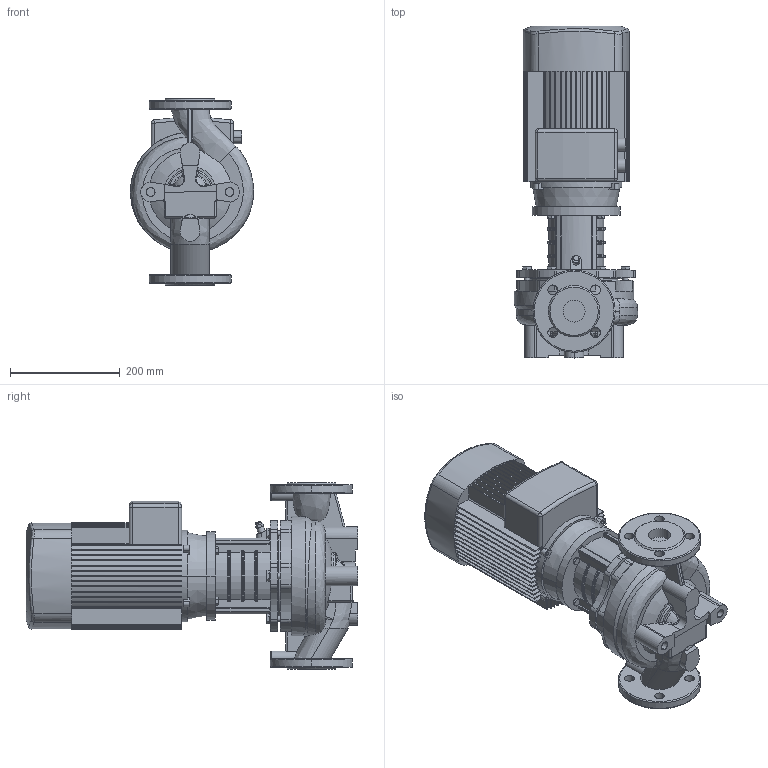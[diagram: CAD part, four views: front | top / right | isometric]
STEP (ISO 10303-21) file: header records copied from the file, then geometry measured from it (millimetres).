
FILE_DESCRIPTION(/* description */ (''),/* implementation_level */ '2;1');
FILE_NAME(/* name */ 'TD40-26-2安装尺寸图.stp',/* time_stamp */ '2026-09-07T15:03:12+08:00',/* author */ (''),/* organization */ (''),/* preprocessor_version */ 'ST-DEVELOPER v16.7',/* originating_system */ 'SIEMENS PLM Software NX 1847',/* authorisation */ '');
FILE_SCHEMA (('AP203_CONFIGURATION_CONTROLLED_3D_DESIGN_OF_MECHANICAL_PARTS_AND_ASSEMBLIES_MIM_LF { 1 0 10303 403 2 1 2}'));
Length unit declared in the file: millimetre
Products named in the file (1): Admi55F8EAC4z0a9
Bounding box: 224.97 x 606 x 340 mm (x, y, z)
Volume: 15906241.8 mm3; surface area: 1001766.9 mm2
Topology: 1 solids, 8 shells, 1050 faces, 2717 edges, 1688 vertices
Faces by surface type: plane 456, cylinder 340, torus 95, cone 74, bspline 51, sphere 34
Full cylindrical faces by diameter (mm): 7.76 x4, 8 x1, 9.732 x6, 10 x1, 11.63 x4, 12.9 x1, 14.63 x6, 160 x1
Entity records: 37976 total; most frequent: CARTESIAN_POINT 12674, DIRECTION 5363, ORIENTED_EDGE 5258, EDGE_CURVE 2629, AXIS2_PLACEMENT_3D 2096, VERTEX_POINT 1666, LINE 1171, VECTOR 1171
